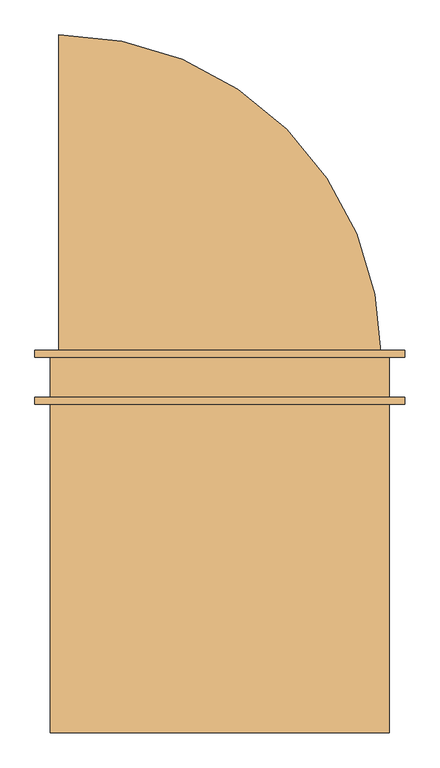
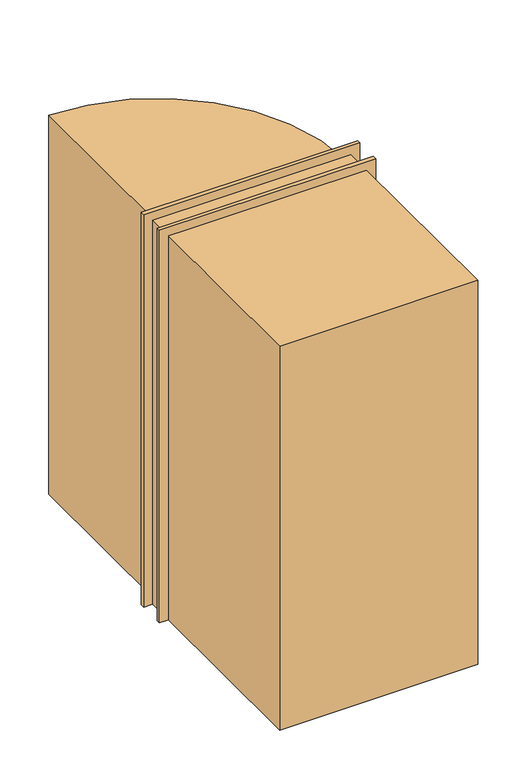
"""IFC4 building model written with IfcOpenShell, lengths in millimetres: door geometry, Дверь_Деревянная_Внутренняя_Однопольная_ГОСТ_475-2016 : 1010 х 2070(h)_Пр_с Порогом."""

import ifcopenshell
import ifcopenshell.guid

model = None  # the IFC model being written
_history = None  # IfcOwnerHistory: only IFC2X3 demands one
_inside = {}  # id of a spatial element -> (the spatial element, [elements in it])
_under = {}  # id of a project, library or spatial element -> (it, [spatial elements below it])
_declared = {}  # id of a project -> (the project, [libraries it declares])
_typed = {}  # id of a type object -> (the type object, [elements of that type])
_made_of = {}  # id of a material, layer set ... -> (it, [elements and type objects made of it])


def new_model(schema):
    """Start an empty IFC model of exactly this schema.

    Asked for "IFC4X3", IfcOpenShell would pick the latest addendum, in which some entities
    have other attributes; the version numbers below select the first issue.
    IFC2X3 requires an IfcOwnerHistory on every rooted entity: one is made here for all.
    """
    global model, _history
    if schema == "IFC4X3":
        model = ifcopenshell.file(schema_version=(4, 3, 0, 0))
    else:
        model = ifcopenshell.file(schema=schema)
    _inside.clear()
    _under.clear()
    _declared.clear()
    _typed.clear()
    _made_of.clear()
    _history = None
    if model.schema == "IFC2X3":
        org = make("IfcOrganization", Name="unknown")
        user = make(
            "IfcPersonAndOrganization",
            ThePerson=make("IfcPerson", FamilyName="unknown"),
            TheOrganization=org,
        )
        app = make(
            "IfcApplication",
            ApplicationDeveloper=org,
            Version="unknown",
            ApplicationFullName="unknown",
            ApplicationIdentifier="unknown",
        )
        _history = make(
            "IfcOwnerHistory",
            OwningUser=user,
            OwningApplication=app,
            ChangeAction="ADDED",
            CreationDate=0,
        )
    return model


def make(cls, **values):
    """One entity of the class cls with the attributes given. An attribute that is None is left unset."""
    return model.create_entity(
        cls, **{name: value for name, value in values.items() if value is not None}
    )


def rooted(cls, **values):
    """An entity with a GlobalId (a new one), such as an element, a storey or a relation."""
    return make(cls, GlobalId=ifcopenshell.guid.new(), OwnerHistory=_history, **values)


def si_unit(unit_type, name, prefix=None):
    """IfcSIUnit, for example si_unit("LENGTHUNIT", "METRE", prefix="MILLI")."""
    return make("IfcSIUnit", UnitType=unit_type, Prefix=prefix, Name=name)


def assignment(units):
    """IfcUnitAssignment: the units of a project."""
    return None if units is None else make("IfcUnitAssignment", Units=units)


def point(xyz):
    """IfcCartesianPoint."""
    return None if xyz is None else make("IfcCartesianPoint", Coordinates=xyz)


def direction(xyz):
    """IfcDirection."""
    return None if xyz is None else make("IfcDirection", DirectionRatios=xyz)


def frame(location, z_axis=None, x_axis=None):
    """IfcAxis2Placement3D, a coordinate frame: its origin and axes. An axis left out is left unset."""
    return make(
        "IfcAxis2Placement3D",
        Location=point(location),
        Axis=direction(z_axis),
        RefDirection=direction(x_axis),
    )


def frame_2d(location, x_axis=None):
    """IfcAxis2Placement2D, a coordinate frame in the plane: its origin and x axis."""
    return make(
        "IfcAxis2Placement2D", Location=point(location), RefDirection=direction(x_axis)
    )


def origin():
    """The frame at (0, 0, 0) with its axes left unset."""
    return frame((0.0, 0.0, 0.0))


def origin_with_axes():
    """The frame at (0, 0, 0) with the z axis (0, 0, 1) and the x axis (1, 0, 0) written out."""
    return frame((0.0, 0.0, 0.0), z_axis=(0.0, 0.0, 1.0), x_axis=(1.0, 0.0, 0.0))


def place(relative_to, where):
    """IfcLocalPlacement: puts the frame where relative to a parent placement (None: the world)."""
    return make(
        "IfcLocalPlacement", PlacementRelTo=relative_to, RelativePlacement=where
    )


def context(
    kind, dimensions, precision=None, world=None, true_north=None, identifier=None
):
    """IfcGeometricRepresentationContext, for example the 3D "Model" context."""
    return make(
        "IfcGeometricRepresentationContext",
        ContextIdentifier=identifier,
        ContextType=kind,
        CoordinateSpaceDimension=dimensions,
        Precision=precision,
        WorldCoordinateSystem=world,
        TrueNorth=true_north,
    )


def project(units=None, contexts=None):
    """IfcProject with its units and contexts."""
    return rooted(
        "IfcProject",
        Name="project",
        RepresentationContexts=contexts,
        UnitsInContext=assignment(units),
    )


def spatial(cls, under=None, at=None, **own):
    """A site, building, storey or space (cls), placed at a placement, below another one or the project."""
    s = rooted(cls, ObjectPlacement=at, **own)
    if under is not None:
        _under.setdefault(under.id(), (under, []))[1].append(s)
    return s


def polyline(points):
    """IfcPolyline through the points."""
    return make("IfcPolyline", Points=[point(p) for p in points])


def circle_curve(where, radius):
    """IfcCircle in the frame where."""
    return make("IfcCircle", Position=where, Radius=radius)


def trimmed(basis, trim1, trim2, sense, master):
    """IfcTrimmedCurve: the piece of a basis curve between two trims."""
    return make(
        "IfcTrimmedCurve",
        BasisCurve=basis,
        Trim1=trim1,
        Trim2=trim2,
        SenseAgreement=sense,
        MasterRepresentation=master,
    )


def segment(curve, same_sense, transition):
    """IfcCompositeCurveSegment."""
    return make(
        "IfcCompositeCurveSegment",
        Transition=transition,
        SameSense=same_sense,
        ParentCurve=curve,
    )


def composite_curve(segments, self_intersect=None):
    """IfcCompositeCurve: segments joined end to end."""
    return make("IfcCompositeCurve", Segments=segments, SelfIntersect=self_intersect)


def outline(outer, holes=None, kind="AREA"):
    """IfcArbitraryClosedProfileDef: a profile drawn as a closed curve; with holes, ...WithVoids."""
    if holes is None:
        return make("IfcArbitraryClosedProfileDef", ProfileType=kind, OuterCurve=outer)
    return make(
        "IfcArbitraryProfileDefWithVoids",
        ProfileType=kind,
        OuterCurve=outer,
        InnerCurves=holes,
    )


def extrude(swept, where, along, depth):
    """IfcExtrudedAreaSolid: the profile swept, set in the frame where, extruded along a direction by depth."""
    return make(
        "IfcExtrudedAreaSolid",
        SweptArea=swept,
        Position=where,
        ExtrudedDirection=direction(along),
        Depth=depth,
    )


def faces_of(points, faces, orient=None, outer=None):
    """IfcFace entities. A face is a list of loops; a loop is a list of indices into points, from 0.

    orient and outer hold one flag for each loop. By default every Orientation is true, the
    first loop of a face is its IfcFaceOuterBound and the others are IfcFaceBound.
    """
    made = []
    for i, loops in enumerate(faces):
        bounds = []
        for j, loop in enumerate(loops):
            is_outer = j == 0 if outer is None else outer[i][j]
            bounds.append(
                make(
                    "IfcFaceOuterBound" if is_outer else "IfcFaceBound",
                    Bound=make("IfcPolyLoop", Polygon=[points[k] for k in loop]),
                    Orientation=True if orient is None else orient[i][j],
                )
            )
        made.append(make("IfcFace", Bounds=bounds))
    return made


def faceted_brep(points, faces, orient=None, outer=None, voids=None):
    """IfcFacetedBrep: a solid bounded by flat faces; with voids (closed shells), ...WithVoids."""
    shared = [point(p) for p in points]
    hull = make("IfcClosedShell", CfsFaces=faces_of(shared, faces, orient, outer))
    if voids is None:
        return make("IfcFacetedBrep", Outer=hull)
    return make(
        "IfcFacetedBrepWithVoids",
        Outer=hull,
        Voids=[
            make(cls, CfsFaces=faces_of(shared, fs, o, b)) for cls, fs, o, b in voids
        ],
    )


def shape(context_of_items, identifier, shape_type, items):
    """IfcShapeRepresentation: the items that make up one representation, for example the "Body"."""
    return make(
        "IfcShapeRepresentation",
        ContextOfItems=context_of_items,
        RepresentationIdentifier=identifier,
        RepresentationType=shape_type,
        Items=items,
    )


def source(mapping_origin, context_of_items, identifier, shape_type, items):
    """IfcRepresentationMap: a shape defined once, which mapped items show again and again."""
    return make(
        "IfcRepresentationMap",
        MappingOrigin=mapping_origin,
        MappedRepresentation=shape(context_of_items, identifier, shape_type, items),
    )


def transform(
    local_origin,
    x_axis=None,
    y_axis=None,
    z_axis=None,
    scale=None,
    scale2=None,
    scale3=None,
    uniform=True,
):
    """IfcCartesianTransformationOperator3D, or its non-uniform kind. x_axis, y_axis, z_axis: its Axis1, 2, 3."""
    if uniform:
        return make(
            "IfcCartesianTransformationOperator3D",
            Axis1=direction(x_axis),
            Axis2=direction(y_axis),
            LocalOrigin=point(local_origin),
            Scale=scale,
            Axis3=direction(z_axis),
        )
    return make(
        "IfcCartesianTransformationOperator3DnonUniform",
        Axis1=direction(x_axis),
        Axis2=direction(y_axis),
        LocalOrigin=point(local_origin),
        Scale=scale,
        Axis3=direction(z_axis),
        Scale2=scale2,
        Scale3=scale3,
    )


def mapped(mapping_source, mapping_target):
    """IfcMappedItem: shows the shape of a source again, moved by a transform."""
    return make(
        "IfcMappedItem", MappingSource=mapping_source, MappingTarget=mapping_target
    )


def made_of(thing, what):
    """Note that an element or type object is made of a material, layer set ...; save() writes the relation."""
    if what is not None:
        _made_of.setdefault(what.id(), (what, []))[1].append(thing)
    return thing


def element(
    cls,
    number,
    at=None,
    inside=None,
    cuts=None,
    type_object=None,
    material=None,
    context=None,
    identifier="Body",
    shape_type=None,
    held_by="IfcProductDefinitionShape",
    body=None,
    shapes=None,
    **own,
):
    """One element of the class cls, such as IfcWall. Its Tag is "e" and its number.

    at: its placement. inside: the storey or other place that contains it. cuts: it is an
    opening in that element (IfcRelVoidsElement). A single representation is given by context,
    identifier, shape_type and body (its items); several are given by shapes. held_by: the class
    of the entity that holds the representations. save() writes the other relations.
    """
    e = rooted(cls, Tag="e%d" % number, ObjectPlacement=at, **own)
    if body is not None:
        shapes = [shape(context, identifier, shape_type, body)]
    if shapes is not None:
        e.Representation = make(held_by, Representations=shapes)
    if inside is not None:
        _inside.setdefault(inside.id(), (inside, []))[1].append(e)
    if cuts is not None:
        rooted(
            "IfcRelVoidsElement", RelatingBuildingElement=cuts, RelatedOpeningElement=e
        )
    if type_object is not None:
        _typed.setdefault(type_object.id(), (type_object, []))[1].append(e)
    return made_of(e, material)


def aggregate(whole, parts):
    """IfcRelAggregates: a whole, such as a stair, and the parts it consists of."""
    return rooted("IfcRelAggregates", RelatingObject=whole, RelatedObjects=parts)


def save(model, path):
    """Write the relations noted so far, then the file.

    IfcRelAggregates (storeys below a building ...), IfcRelContainedInSpatialStructure (elements
    in a storey), IfcRelDefinesByType, IfcRelAssociatesMaterial and IfcRelDeclares: one each for
    every whole, place, type object, material and project.
    """
    for whole, parts in _under.values():
        aggregate(whole, parts)
    for where, things in _inside.values():
        rooted(
            "IfcRelContainedInSpatialStructure",
            RelatedElements=things,
            RelatingStructure=where,
        )
    for kind, things in _typed.values():
        rooted("IfcRelDefinesByType", RelatedObjects=things, RelatingType=kind)
    for what, things in _made_of.values():
        rooted("IfcRelAssociatesMaterial", RelatedObjects=things, RelatingMaterial=what)
    for by, libraries in _declared.values():
        rooted("IfcRelDeclares", RelatingContext=by, RelatedDefinitions=libraries)
    model.write(path)


def plane_surface(at):
    """IfcPlane: the flat surface through the origin of the frame at, square to its z axis."""
    return make("IfcPlane", Position=at)


def cylinder_surface(at, radius):
    """IfcCylindricalSurface: all points at the distance radius from the z axis of the frame at."""
    return make("IfcCylindricalSurface", Position=at, Radius=radius)


def revolved_surface(curve, axis_point, axis_direction):
    """IfcSurfaceOfRevolution: the curve turned about the line through axis_point along axis_direction."""
    return make(
        "IfcSurfaceOfRevolution",
        SweptCurve=make("IfcArbitraryOpenProfileDef", ProfileType="CURVE", Curve=curve),
        AxisPosition=make("IfcAxis1Placement", Location=point(axis_point), Axis=direction(axis_direction)),
    )


def advanced_brep(points, edges, surfaces, faces):
    """IfcAdvancedBrep: a solid bounded by faces that lie on surfaces and meet in shared edges.

    An edge is (start, end): straight between two places in points (the first is 0);
    or (start, end, curve); or (start, end, curve, False) where it runs against its curve.
    A face is (place in surfaces, loops), or (place, loops, False) where it looks against
    its surface's normal. A loop lists edges by number (the first is 1), with a minus sign
    where the edge is run from its end to its start. The first loop is the outer one.
    """
    corners = [point(p) for p in points]
    vertices = [make("IfcVertexPoint", VertexGeometry=c) for c in corners]
    made = []
    for start, end, *more in edges:
        made.append(
            make(
                "IfcEdgeCurve",
                EdgeStart=vertices[start],
                EdgeEnd=vertices[end],
                EdgeGeometry=more[0] if more else make("IfcPolyline", Points=[corners[start], corners[end]]),
                SameSense=more[1] if len(more) > 1 else True,
            )
        )
    hull = []
    for where, loops, *sense in faces:
        bounds = []
        for j, loop in enumerate(loops):
            ring = [make("IfcOrientedEdge", EdgeElement=made[abs(k) - 1], Orientation=k > 0) for k in loop]
            bounds.append(
                make(
                    "IfcFaceOuterBound" if j == 0 else "IfcFaceBound",
                    Bound=make("IfcEdgeLoop", EdgeList=ring),
                    Orientation=True,
                )
            )
        hull.append(make("IfcAdvancedFace", Bounds=bounds, FaceSurface=surfaces[where], SameSense=sense[0] if sense else True))
    return make("IfcAdvancedBrep", Outer=make("IfcClosedShell", CfsFaces=hull))


def door_29457918(model_context):
    return source(origin(), model_context, "Body", "SolidModel", [
        extrude(outline(composite_curve([segment(trimmed(circle_curve(frame_2d((-480.0, 56.825)), 960.0), [point((-480.0, 1016.825))], [point((480.0, 56.825))], False, "CARTESIAN"), True, "CONTINUOUS"), segment(polyline([(480.0, 56.825), (-480.0, 56.825), (-480.0, 1016.825)]), True, "CONTINUOUS")], self_intersect=False)), origin_with_axes(), (0.0, 0.0, 1.0), 2045.0),
        extrude(outline(polyline([(-505.0, -1063.175), (-505.0, -63.175), (505.0, -63.175), (505.0, -1063.175), (-505.0, -1063.175)])), origin_with_axes(), (0.0, 0.0, 1.0), 2070.0),
        advanced_brep(
        [(415.0, 15.825, 914.4), (425.0, 15.825, 914.4), (405.0, 15.825, 914.4), (394.5241324, -33.175, 914.4), (435.4758676, -33.175, 914.4), (415.0, -33.175, 914.4), (390.0, -31.3471319, 914.4), (440.0, -31.3471319, 914.4), (390.0, -27.8834537, 914.4), (440.0, -27.8834537, 914.4), (396.363764, -3.175, 914.4), (433.636236, -3.175, 914.4), (405.0, -3.175, 914.4), (425.0, -3.175, 914.4)],
        [
            (0, 1),
            (1, 2, circle_curve(frame((415.0, 15.825, 914.4), z_axis=(0.0, 1.0, 0.0), x_axis=(1.0, 0.0, 0.0)), 10.0)),
            (2, 0),
            (2, 1, circle_curve(frame((415.0, 15.825, 914.4), z_axis=(0.0, 1.0, 0.0), x_axis=(1.0, 0.0, 0.0)), 10.0)),
            (3, 4, circle_curve(frame((415.0, -33.175, 914.4), z_axis=(0.0, -1.0, 0.0), x_axis=(1.0, 0.0, 0.0)), 20.4758676)),
            (4, 5),
            (5, 3),
            (4, 3, circle_curve(frame((415.0, -33.175, 914.4), z_axis=(0.0, -1.0, 0.0), x_axis=(1.0, 0.0, 0.0)), 20.4758676)),
            (6, 7, circle_curve(frame((415.0, -31.3471319, 914.4), z_axis=(0.0, -1.0, 0.0), x_axis=(1.0, 0.0, 0.0)), 25.0)),
            (7, 4),
            (3, 6),
            (7, 6, circle_curve(frame((415.0, -31.3471319, 914.4), z_axis=(0.0, -1.0, 0.0), x_axis=(1.0, 0.0, 0.0)), 25.0)),
            (8, 9, circle_curve(frame((415.0, -27.8834537, 914.4), z_axis=(0.0, -1.0, 0.0), x_axis=(1.0, 0.0, 0.0)), 25.0)),
            (9, 7),
            (6, 8),
            (9, 8, circle_curve(frame((415.0, -27.8834537, 914.4), z_axis=(0.0, -1.0, 0.0), x_axis=(1.0, 0.0, 0.0)), 25.0)),
            (10, 11, circle_curve(frame((415.0, -3.175, 914.4), z_axis=(0.0, -1.0, 0.0), x_axis=(1.0, 0.0, 0.0)), 18.636236)),
            (11, 9),
            (8, 10),
            (11, 10, circle_curve(frame((415.0, -3.175, 914.4), z_axis=(0.0, -1.0, 0.0), x_axis=(1.0, 0.0, 0.0)), 18.636236)),
            (12, 13, circle_curve(frame((415.0, -3.175, 914.4), z_axis=(0.0, -1.0, 0.0), x_axis=(1.0, 0.0, 0.0)), 10.0)),
            (13, 11),
            (10, 12),
            (13, 12, circle_curve(frame((415.0, -3.175, 914.4), z_axis=(0.0, -1.0, 0.0), x_axis=(1.0, 0.0, 0.0)), 10.0)),
            (1, 13),
            (12, 2),
        ],
        [
            plane_surface(frame((415.0, 15.825, 914.4), z_axis=(0.0, 1.0, 0.0), x_axis=(1.0, 0.0, 0.0))),
            plane_surface(frame((415.0, -33.175, 914.4), z_axis=(0.0, -1.0, 0.0), x_axis=(1.0, 0.0, 0.0))),
            revolved_surface(polyline([(435.4758676, -33.175, 914.4), (440.0, -31.3471319, 914.4)]), (415.0, 15.825, 914.4), (0.0, 1.0, 0.0)),
            cylinder_surface(frame((415.0, 15.825, 914.4), z_axis=(0.0, 1.0, 0.0), x_axis=(1.0, 0.0, 0.0)), 25.0),
            revolved_surface(polyline([(440.0, -27.8834537, 914.4), (433.636236, -3.175, 914.4)]), (415.0, 15.825, 914.4), (0.0, 1.0, 0.0)),
            plane_surface(frame((415.0, -3.175, 914.4), z_axis=(0.0, 1.0, 0.0), x_axis=(1.0, 0.0, 0.0))),
            cylinder_surface(frame((415.0, 15.825, 914.4), z_axis=(0.0, 1.0, 0.0), x_axis=(1.0, 0.0, 0.0)), 10.0),
        ],
        [
            (0, [[1, 2, 3]]),
            (0, [[-3, 4, -1]]),
            (1, [[5, 6, 7]]),
            (1, [[8, -7, -6]]),
            (2, [[9, 10, -5, 11]]),
            (2, [[12, -11, -8, -10]]),
            (3, [[13, 14, -9, 15]]),
            (3, [[16, -15, -12, -14]]),
            (4, [[17, 18, -13, 19]]),
            (4, [[20, -19, -16, -18]]),
            (5, [[21, 22, -17, 23]]),
            (5, [[24, -23, -20, -22]]),
            (6, [[-2, 25, -21, 26]]),
            (6, [[-4, -26, -24, -25]]),
        ],
    ),
        extrude(outline(composite_curve([segment(trimmed(circle_curve(frame_2d((914.4, 415.0)), 30.0), [point((914.4, 445.0))], [point((914.4, 385.0))], False, "CARTESIAN"), True, "CONTINUOUS"), segment(trimmed(circle_curve(frame_2d((914.4, 415.0)), 30.0), [point((914.4, 385.0))], [point((914.4, 445.0))], False, "CARTESIAN"), True, "CONTINUOUS")], self_intersect=False)), frame((0.0, 15.825, 0.0), z_axis=(0.0, 1.0, 0.0), x_axis=(0.0, 0.0, 1.0)), (0.0, 0.0, 1.0), 6.0),
        advanced_brep(
        [(415.0, 62.825, 914.4), (405.0, 62.825, 914.4), (425.0, 62.825, 914.4), (394.5241324, 111.825, 914.4), (415.0, 111.825, 914.4), (435.4758676, 111.825, 914.4), (390.0, 109.9971319, 914.4), (440.0, 109.9971319, 914.4), (390.0, 106.5334537, 914.4), (440.0, 106.5334537, 914.4), (396.363764, 81.825, 914.4), (433.636236, 81.825, 914.4), (405.0, 81.825, 914.4), (425.0, 81.825, 914.4)],
        [
            (0, 1),
            (1, 2, circle_curve(frame((415.0, 62.825, 914.4), z_axis=(0.0, -1.0, 0.0), x_axis=(1.0, 0.0, 0.0)), 10.0)),
            (2, 0),
            (2, 1, circle_curve(frame((415.0, 62.825, 914.4), z_axis=(0.0, -1.0, 0.0), x_axis=(1.0, 0.0, 0.0)), 10.0)),
            (3, 4),
            (4, 5),
            (5, 3, circle_curve(frame((415.0, 111.825, 914.4), z_axis=(0.0, 1.0, 0.0), x_axis=(1.0, 0.0, 0.0)), 20.4758676)),
            (3, 5, circle_curve(frame((415.0, 111.825, 914.4), z_axis=(0.0, 1.0, 0.0), x_axis=(1.0, 0.0, 0.0)), 20.4758676)),
            (6, 3),
            (5, 7),
            (7, 6, circle_curve(frame((415.0, 109.9971319, 914.4), z_axis=(0.0, 1.0, 0.0), x_axis=(1.0, 0.0, 0.0)), 25.0)),
            (6, 7, circle_curve(frame((415.0, 109.9971319, 914.4), z_axis=(0.0, 1.0, 0.0), x_axis=(1.0, 0.0, 0.0)), 25.0)),
            (8, 6),
            (7, 9),
            (9, 8, circle_curve(frame((415.0, 106.5334537, 914.4), z_axis=(0.0, 1.0, 0.0), x_axis=(1.0, 0.0, 0.0)), 25.0)),
            (8, 9, circle_curve(frame((415.0, 106.5334537, 914.4), z_axis=(0.0, 1.0, 0.0), x_axis=(1.0, 0.0, 0.0)), 25.0)),
            (10, 8),
            (9, 11),
            (11, 10, circle_curve(frame((415.0, 81.825, 914.4), z_axis=(0.0, 1.0, 0.0), x_axis=(1.0, 0.0, 0.0)), 18.636236)),
            (10, 11, circle_curve(frame((415.0, 81.825, 914.4), z_axis=(0.0, 1.0, 0.0), x_axis=(1.0, 0.0, 0.0)), 18.636236)),
            (12, 10),
            (11, 13),
            (13, 12, circle_curve(frame((415.0, 81.825, 914.4), z_axis=(0.0, 1.0, 0.0), x_axis=(1.0, 0.0, 0.0)), 10.0)),
            (12, 13, circle_curve(frame((415.0, 81.825, 914.4), z_axis=(0.0, 1.0, 0.0), x_axis=(1.0, 0.0, 0.0)), 10.0)),
            (1, 12),
            (13, 2),
        ],
        [
            plane_surface(frame((415.0, 62.825, 914.4), z_axis=(0.0, -1.0, 0.0), x_axis=(1.0, 0.0, 0.0))),
            plane_surface(frame((415.0, 111.825, 914.4), z_axis=(0.0, 1.0, 0.0), x_axis=(1.0, 0.0, 0.0))),
            revolved_surface(polyline([(435.4758676, 111.825, 914.4), (440.0, 109.9971319, 914.4)]), (415.0, 62.825, 914.4), (0.0, -1.0, 0.0)),
            cylinder_surface(frame((415.0, 62.825, 914.4), z_axis=(0.0, -1.0, 0.0), x_axis=(1.0, 0.0, 0.0)), 25.0),
            revolved_surface(polyline([(440.0, 106.5334537, 914.4), (433.636236, 81.825, 914.4)]), (415.0, 62.825, 914.4), (0.0, -1.0, 0.0)),
            plane_surface(frame((415.0, 81.825, 914.4), z_axis=(0.0, -1.0, 0.0), x_axis=(1.0, 0.0, 0.0))),
            cylinder_surface(frame((415.0, 62.825, 914.4), z_axis=(0.0, -1.0, 0.0), x_axis=(1.0, 0.0, 0.0)), 10.0),
        ],
        [
            (0, [[1, 2, 3]]),
            (0, [[-3, 4, -1]]),
            (1, [[5, 6, 7]]),
            (1, [[-6, -5, 8]]),
            (2, [[9, -7, 10, 11]]),
            (2, [[-10, -8, -9, 12]]),
            (3, [[13, -11, 14, 15]]),
            (3, [[-14, -12, -13, 16]]),
            (4, [[17, -15, 18, 19]]),
            (4, [[-18, -16, -17, 20]]),
            (5, [[21, -19, 22, 23]]),
            (5, [[-22, -20, -21, 24]]),
            (6, [[25, -23, 26, -2]]),
            (6, [[-26, -24, -25, -4]]),
        ],
    ),
        extrude(outline(composite_curve([segment(trimmed(circle_curve(frame_2d((914.4, 415.0)), 30.0), [point((914.4, 445.0))], [point((914.4, 385.0))], False, "CARTESIAN"), True, "CONTINUOUS"), segment(trimmed(circle_curve(frame_2d((914.4, 415.0)), 30.0), [point((914.4, 385.0))], [point((914.4, 445.0))], False, "CARTESIAN"), True, "CONTINUOUS")], self_intersect=False)), frame((0.0, 56.825, 0.0), z_axis=(0.0, 1.0, 0.0), x_axis=(0.0, 0.0, 1.0)), (0.0, 0.0, 1.0), 6.0),
        extrude(outline(polyline([(360.0, 33.4916667), (-360.0, 33.4916667), (-360.0, 45.1583333), (360.0, 45.1583333), (360.0, 33.4916667)])), frame((0.0, 0.0, 230.0), z_axis=(0.0, 0.0, 1.0), x_axis=(1.0, 0.0, 0.0)), (0.0, 0.0, 1.0), 1695.0),
        extrude(outline(polyline([(2045.0, -480.0), (25.0, -480.0), (25.0, 480.0), (2045.0, 480.0), (2045.0, -480.0)]), holes=[polyline([(1925.0, -360.0), (1925.0, 360.0), (230.0, 360.0), (230.0, -360.0), (1925.0, -360.0)])]), frame((0.0, 21.825, 0.0), z_axis=(0.0, 1.0, 0.0), x_axis=(0.0, 0.0, 1.0)), (0.0, 0.0, 1.0), 35.0),
        faceted_brep([(505.0, 56.825, 0.0), (505.0, -63.175, 0.0), (480.0, -63.175, 0.0), (480.0, -13.1, 0.0), (467.3, -13.1, 0.0), (467.3, 21.825, 0.0), (480.0, 21.825, 0.0), (480.0, 56.825, 0.0), (505.0, 56.825, 2070.0), (505.0, -63.175, 2070.0), (-505.0, -63.175, 2070.0), (-505.0, -63.175, 0.0), (-480.0, -63.175, 0.0), (-480.0, -63.175, 2045.0), (480.0, -63.175, 2045.0), (480.0, -13.1, 2045.0), (-480.0, -13.1, 2045.0), (-480.0, -13.1, 0.0), (-467.3, -13.1, 0.0), (-467.3, -13.1, 2032.3), (467.3, -13.1, 2032.3), (467.3, 21.825, 2032.3), (-467.3, 21.825, 2032.3), (-467.3, 21.825, 0.0), (-480.0, 21.825, 0.0), (-480.0, 21.825, 2045.0), (480.0, 21.825, 2045.0), (480.0, 56.825, 2045.0), (-480.0, 56.825, 2045.0), (-480.0, 56.825, 0.0), (-505.0, 56.825, 0.0), (-505.0, 56.825, 2070.0)], [[[0, 1, 2, 3, 4, 5, 6, 7]], [[1, 0, 8, 9]], [[2, 1, 9, 10, 11, 12, 13, 14]], [[3, 2, 14, 15]], [[4, 3, 15, 16, 17, 18, 19, 20]], [[5, 4, 20, 21]], [[6, 5, 21, 22, 23, 24, 25, 26]], [[7, 6, 26, 27]], [[0, 7, 27, 28, 29, 30, 31, 8]], [[9, 8, 31, 10]], [[15, 14, 13, 16]], [[21, 20, 19, 22]], [[27, 26, 25, 28]], [[30, 29, 24, 23, 18, 17, 12, 11]], [[10, 31, 30, 11]], [[16, 13, 12, 17]], [[22, 19, 18, 23]], [[28, 25, 24, 29]]]),
        extrude(outline(polyline([(0.0, 486.35), (0.0, 551.35), (2116.35, 551.35), (2116.35, -551.35), (0.0, -551.35), (0.0, -486.35), (2051.35, -486.35), (2051.35, 486.35), (0.0, 486.35)])), frame((0.0, -83.175, 0.0), z_axis=(0.0, 1.0, 0.0), x_axis=(0.0, 0.0, 1.0)), (0.0, 0.0, 1.0), 20.0),
        extrude(outline(polyline([(0.0, 486.35), (0.0, 551.35), (2116.35, 551.35), (2116.35, -551.35), (0.0, -551.35), (0.0, -486.35), (2051.35, -486.35), (2051.35, 486.35), (0.0, 486.35)])), frame((0.0, 56.825, 0.0), z_axis=(0.0, 1.0, 0.0), x_axis=(0.0, 0.0, 1.0)), (0.0, 0.0, 1.0), 20.0),
        extrude(outline(polyline([(480.0, 56.825), (480.0, 21.825), (-480.0, 21.825), (-480.0, 56.825), (480.0, 56.825)])), origin_with_axes(), (0.0, 0.0, 1.0), 25.0),
    ])


if __name__ == "__main__":
    model = new_model("IFC4")
    model_context = context("Model", 3, world=origin())
    ifc_project = project(units=[si_unit("LENGTHUNIT", "METRE", prefix="MILLI")], contexts=[model_context])
    site = spatial("IfcSite", under=ifc_project)
    building = spatial("IfcBuilding", under=site)
    placement = place(None, origin())
    door_shape = door_29457918(model_context)
    element("IfcDoor", 1, ObjectType="Дверь_Деревянная_Внутренняя_Однопольная_ГОСТ_475-2016 : 1010 х 2070(h)_Пр_с Порогом", at=placement, inside=building, context=model_context, shape_type="MappedRepresentation", body=[
        mapped(door_shape, transform((0.0, 0.0, 0.0), x_axis=(1.0, 0.0, 0.0), y_axis=(0.0, 1.0, 0.0), z_axis=(0.0, 0.0, 1.0))),
    ])
    save(model, "model.ifc")
